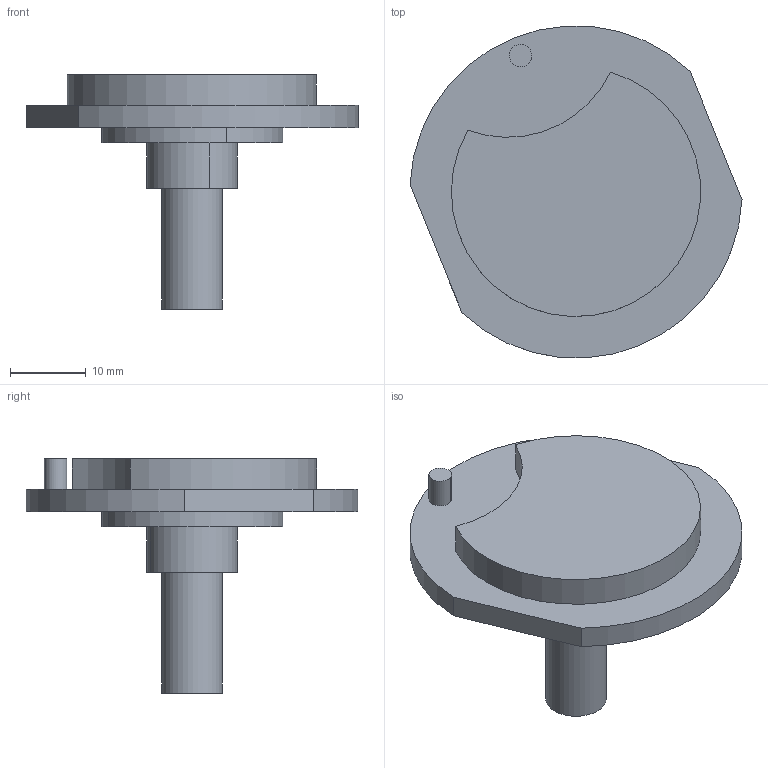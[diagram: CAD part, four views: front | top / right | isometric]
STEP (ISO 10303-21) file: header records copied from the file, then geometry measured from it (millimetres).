
FILE_DESCRIPTION( ('This file contains a STEP AP42 implementation' ,'as created by ZW3D STEP Interface translator.') ,'2;1' );
FILE_NAME( 'zkj-翋雄畢攫.stp' ,'23 9 3.214437', (''), ('ZWCAD Software Co.'), 'Version 1.0', 'ZW3D to STEP translator', '' );
FILE_SCHEMA(('AUTOMOTIVE_DESIGN { 1 0 10303 214 1 1 1 1 }'));
Length unit declared in the file: millimetre
Products named in the file (2): 0; zkj-翋雄畢攫
Bounding box: 43.96 x 43.92 x 31 mm (x, y, z)
Volume: 9635.2 mm3; surface area: 4811.6 mm2
Topology: 1 solids, 1 shells, 29 faces, 59 edges, 37 vertices
Faces by surface type: cylinder 15, plane 9, cone 3, bspline 2
Full cylindrical faces by diameter (mm): 8 x1
Entity records: 850 total; most frequent: CARTESIAN_POINT 161, DIRECTION 143, ORIENTED_EDGE 118, EDGE_CURVE 59, AXIS2_PLACEMENT_3D 58, VERTEX_POINT 38, EDGE_LOOP 35, CIRCLE 30
